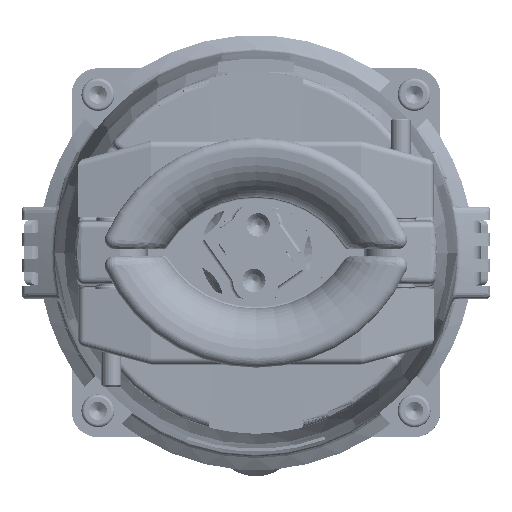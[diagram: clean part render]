
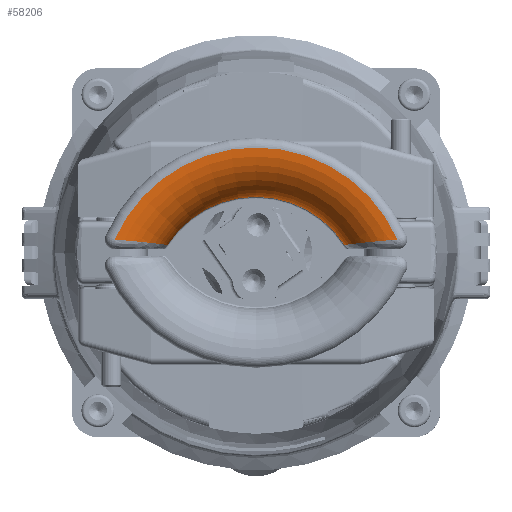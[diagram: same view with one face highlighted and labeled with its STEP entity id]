
A CAD part, left-side view. The second image highlights one B-rep face of the part: STEP entity #58206.
In plain terms, the highlighted toroidal (fillet/blend) face has major radius 47 mm and minor radius 15 mm.
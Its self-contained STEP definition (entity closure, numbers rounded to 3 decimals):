
#54837=CARTESIAN_POINT('',(0.,0.,-15.));
#54838=DIRECTION('',(0.,0.,-1.));
#54839=DIRECTION('',(-0.543,-0.84,0.));
#54840=AXIS2_PLACEMENT_3D('',#54837,#54838,#54839);
#54845=CARTESIAN_POINT('',(-19.,-42.988,0.));
#54846=CARTESIAN_POINT('',(-18.922,-41.969,
0.));
#54847=CARTESIAN_POINT('',(-18.802,-40.467,
-0.138));
#54848=CARTESIAN_POINT('',(-18.634,-38.516,
-0.58));
#54849=CARTESIAN_POINT('',(-18.504,-37.075,
-1.046));
#54850=CARTESIAN_POINT('',(-18.373,-35.685,
-1.637));
#54851=CARTESIAN_POINT('',(-18.242,-34.365,
-2.345));
#54852=CARTESIAN_POINT('',(-18.113,-33.114,
-3.168));
#54853=CARTESIAN_POINT('',(-17.941,-31.527,
-4.437));
#54854=CARTESIAN_POINT('',(-17.782,-30.144,
-5.912));
#54855=CARTESIAN_POINT('',(-17.643,-28.992,
-7.575));
#54856=CARTESIAN_POINT('',(-17.549,-28.243,
-8.938));
#54857=CARTESIAN_POINT('',(-17.473,-27.646,
-10.371));
#54858=CARTESIAN_POINT('',(-17.416,-27.209,
-11.859));
#54859=CARTESIAN_POINT('',(-17.38,-26.935,
-13.419));
#54860=CARTESIAN_POINT('',(-17.371,-26.874,
-14.471));
#54861=CARTESIAN_POINT('',(-17.371,-26.874,-15.));
#54866=CARTESIAN_POINT('',(0.,0.,0.));
#54867=DIRECTION('',(0.,0.,1.));
#54868=DIRECTION('',(-1.,0.,0.));
#54869=AXIS2_PLACEMENT_3D('',#54866,#54867,#54868);
#54874=CARTESIAN_POINT('',(0.,0.,0.));
#54875=DIRECTION('',(0.,0.,1.));
#54876=DIRECTION('',(-0.404,0.915,0.));
#54877=AXIS2_PLACEMENT_3D('',#54874,#54875,#54876);
#54882=CARTESIAN_POINT('',(-17.371,26.874,-15.));
#54883=CARTESIAN_POINT('',(-17.371,26.874,
-13.945));
#54884=CARTESIAN_POINT('',(-17.395,27.054,
-12.4));
#54885=CARTESIAN_POINT('',(-17.472,27.638,
-10.393));
#54886=CARTESIAN_POINT('',(-17.548,28.235,
-8.958));
#54887=CARTESIAN_POINT('',(-17.64,28.968,
-7.614));
#54888=CARTESIAN_POINT('',(-17.781,30.137,
-5.917));
#54889=CARTESIAN_POINT('',(-17.94,31.52,
-4.445));
#54890=CARTESIAN_POINT('',(-18.111,33.102,
-3.176));
#54891=CARTESIAN_POINT('',(-18.285,34.784,
-2.069));
#54892=CARTESIAN_POINT('',(-18.46,36.585,
-1.205));
#54893=CARTESIAN_POINT('',(-18.634,38.513,
-0.581));
#54894=CARTESIAN_POINT('',(-18.802,40.468,
-0.138));
#54895=CARTESIAN_POINT('',(-18.922,41.97,
0.));
#54896=CARTESIAN_POINT('',(-19.,42.988,
0.));
#54901=CARTESIAN_POINT('',(0.,0.,-15.));
#54902=DIRECTION('',(0.,0.,-1.));
#54903=DIRECTION('',(-1.,0.,0.));
#54904=AXIS2_PLACEMENT_3D('',#54901,#54902,#54903);
#57948=CARTESIAN_POINT('',(-47.,0.,0.));
#57949=CARTESIAN_POINT('',(-19.,-42.988,0.));
#57950=VERTEX_POINT('',#57948);
#57951=VERTEX_POINT('',#57949);
#57952=CARTESIAN_POINT('',(-19.,42.988,0.));
#57953=VERTEX_POINT('',#57952);
#58015=CARTESIAN_POINT('',(-17.371,-26.874,-15.));
#58016=VERTEX_POINT('',#58015);
#58056=CARTESIAN_POINT('',(-17.371,26.874,-15.));
#58058=VERTEX_POINT('',#58056);
#58119=CARTESIAN_POINT('',(-32.,0.,-15.));
#58120=VERTEX_POINT('',#58119);
#58189=CARTESIAN_POINT('',(0.,0.,-15.));
#58190=DIRECTION('',(0.,0.,1.));
#58191=DIRECTION('',(1.,0.,0.));
#58192=AXIS2_PLACEMENT_3D('',#58189,#58190,#58191);
#58193=TOROIDAL_SURFACE('1664',#58192,47.,15.);
#58195=ORIENTED_EDGE('1520',*,*,#58194,.F.);
#58197=ORIENTED_EDGE('1481',*,*,#58196,.F.);
#58198=ORIENTED_EDGE('1323',*,*,#58177,.F.);
#58199=ORIENTED_EDGE('1324',*,*,#58184,.F.);
#58201=ORIENTED_EDGE('1564',*,*,#58200,.F.);
#58203=ORIENTED_EDGE('1519',*,*,#58202,.F.);
#58204=EDGE_LOOP('1664',(#58195,#58197,#58198,#58199,#58201,#58203));
#58205=FACE_OUTER_BOUND('1664',#58204,.F.);
#54841=CIRCLE('1520',#54840,32.);
#54862=B_SPLINE_CURVE_WITH_KNOTS('1481',3,(#54845,#54846,#54847,#54848,#54849,
#54850,#54851,#54852,#54853,#54854,#54855,#54856,#54857,#54858,#54859,#54860,
#54861),.UNSPECIFIED.,.F.,.F.,(4,1,1,1,1,1,1,1,1,1,1,1,1,1,4),(0.,0.125,
0.188,0.25,0.313,0.375,0.438,0.5,0.625,0.688,0.75,
0.813,0.875,0.938,1.),.UNSPECIFIED.);
#54870=CIRCLE('1323',#54869,47.);
#54878=CIRCLE('1324',#54877,47.);
#54897=B_SPLINE_CURVE_WITH_KNOTS('1564',3,(#54882,#54883,#54884,#54885,#54886,
#54887,#54888,#54889,#54890,#54891,#54892,#54893,#54894,#54895,#54896),
.UNSPECIFIED.,.F.,.F.,(4,1,1,1,1,1,1,1,1,1,1,1,4),(0.,0.125,0.188,0.25,
0.313,0.375,0.5,0.563,0.625,0.75,
0.812,0.875,1.),.UNSPECIFIED.);
#54905=CIRCLE('1519',#54904,32.);
#58177=EDGE_CURVE('1323',#57950,#57951,#54870,.T.);
#58184=EDGE_CURVE('1324',#57953,#57950,#54878,.T.);
#58194=EDGE_CURVE('1520',#58016,#58120,#54841,.T.);
#58196=EDGE_CURVE('1481',#57951,#58016,#54862,.T.);
#58200=EDGE_CURVE('1564',#58058,#57953,#54897,.T.);
#58202=EDGE_CURVE('1519',#58120,#58058,#54905,.T.);
#58206=ADVANCED_FACE('1664',(#58205),#58193,.T.);
